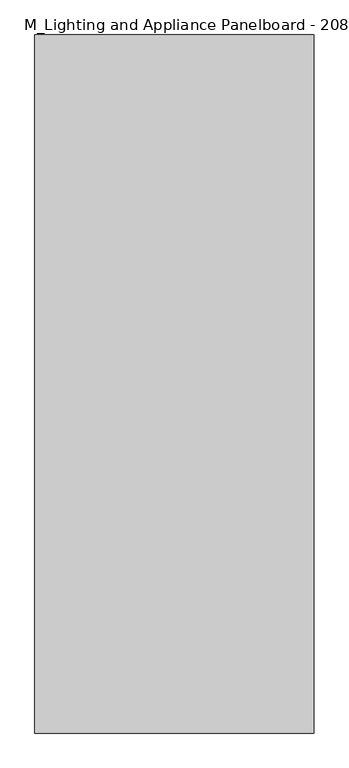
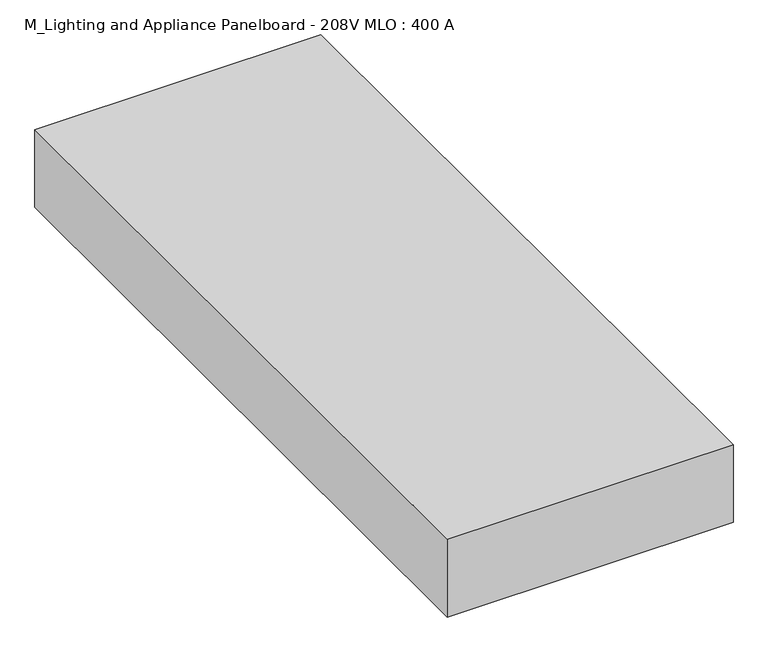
"""IFC4 building model written with IfcOpenShell, lengths in millimetres: electric distribution board geometry, M_Lighting and Appliance Panelboard - 208V MLO : 400 A."""

from ifc_helpers import new_model, si_unit, frame, origin, place, context, project, spatial, polyline, outline, extrude, source, transform, mapped, element, save


def m_lighting_and_appliance_panelboard_208v_mlo_400_a_7f70f8aa(model_context):
    return source(origin(), model_context, "Body", "SweptSolid", [
        extrude(outline(polyline([(254.0, 215.9), (254.0, -1054.1), (-254.0, -1054.1), (-254.0, 215.9), (254.0, 215.9)])), frame((0.0, 0.0, -146.1), z_axis=(0.0, 0.0, 1.0), x_axis=(1.0, 0.0, 0.0)), (0.0, 0.0, 1.0), 146.1),
    ])


if __name__ == "__main__":
    model = new_model("IFC4")
    model_context = context("Model", 3, world=origin())
    ifc_project = project(units=[si_unit("LENGTHUNIT", "METRE", prefix="MILLI")], contexts=[model_context])
    site = spatial("IfcSite", under=ifc_project)
    building = spatial("IfcBuilding", under=site)
    placement = place(None, origin())
    m_lighting_and_appliance_panelboard_208v_mlo_400_a_shape = m_lighting_and_appliance_panelboard_208v_mlo_400_a_7f70f8aa(model_context)
    element("IfcElectricDistributionBoard", 1, ObjectType="M_Lighting and Appliance Panelboard - 208V MLO : 400 A", at=placement, inside=building, context=model_context, shape_type="MappedRepresentation", body=[
        mapped(m_lighting_and_appliance_panelboard_208v_mlo_400_a_shape, transform((0.0, 0.0, 0.0), x_axis=(1.0, 0.0, 0.0), y_axis=(0.0, 1.0, 0.0), z_axis=(0.0, 0.0, 1.0))),
    ])
    save(model, "model.ifc")
